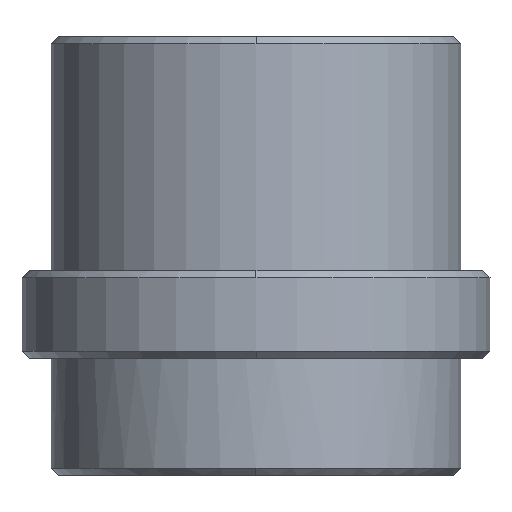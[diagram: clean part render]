
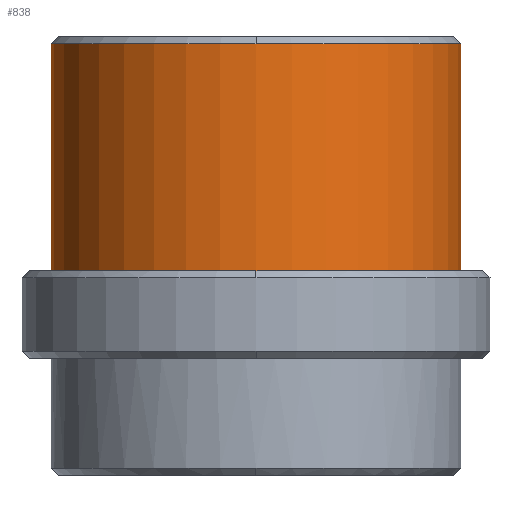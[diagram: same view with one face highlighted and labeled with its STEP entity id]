
A CAD part, front view. The second image highlights one B-rep face of the part: STEP entity #838.
In plain terms, the highlighted cylindrical face has radius 14 mm (diameter 28 mm), a partial arc.
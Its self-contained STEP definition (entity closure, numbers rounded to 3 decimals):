
#591=CARTESIAN_POINT('Vertex',(0.,-14.,21.5)) ;
#607=CARTESIAN_POINT('Vertex',(-14.,0.,21.5)) ;
#610=CARTESIAN_POINT('Axis2P3D Location',(0.,0.,21.5)) ;
#627=CARTESIAN_POINT('Axis2P3D Location',(0.,0.,21.5)) ;
#631=CARTESIAN_POINT('Vertex',(14.,0.,21.5)) ;
#807=CARTESIAN_POINT('Axis2P3D Location',(0.,0.,-9.5)) ;
#812=CARTESIAN_POINT('Line Origine',(-14.,0.,-9.5)) ;
#816=CARTESIAN_POINT('Vertex',(-14.,0.,6.)) ;
#819=CARTESIAN_POINT('Axis2P3D Location',(0.,0.,6.)) ;
#823=CARTESIAN_POINT('Vertex',(14.,0.,6.)) ;
#826=CARTESIAN_POINT('Line Origine',(14.,0.,-9.5)) ;
#611=DIRECTION('Axis2P3D Direction',(0.,0.,-1.)) ;
#628=DIRECTION('Axis2P3D Direction',(0.,0.,-1.)) ;
#808=DIRECTION('Axis2P3D Direction',(0.,0.,1.)) ;
#809=DIRECTION('Axis2P3D XDirection',(-1.,0.,0.)) ;
#813=DIRECTION('Vector Direction',(0.,0.,1.)) ;
#820=DIRECTION('Axis2P3D Direction',(0.,0.,1.)) ;
#827=DIRECTION('Vector Direction',(0.,0.,1.)) ;
#612=AXIS2_PLACEMENT_3D('Circle Axis2P3D',#610,#611,$) ;
#629=AXIS2_PLACEMENT_3D('Circle Axis2P3D',#627,#628,$) ;
#810=AXIS2_PLACEMENT_3D('Cylinder Axis2P3D',#807,#808,#809) ;
#821=AXIS2_PLACEMENT_3D('Circle Axis2P3D',#819,#820,$) ;
#832=ORIENTED_EDGE('',*,*,#818,.T.) ;
#833=ORIENTED_EDGE('',*,*,#825,.F.) ;
#834=ORIENTED_EDGE('',*,*,#830,.F.) ;
#835=ORIENTED_EDGE('',*,*,#633,.T.) ;
#836=ORIENTED_EDGE('',*,*,#614,.T.) ;
#814=VECTOR('Line Direction',#813,1.) ;
#828=VECTOR('Line Direction',#827,1.) ;
#838=ADVANCED_FACE('MANIFOLD_SOLID_BREP #2006',(#837),#811,.T.) ;
#613=CIRCLE('generated circle',#612,14.) ;
#630=CIRCLE('generated circle',#629,14.) ;
#822=CIRCLE('generated circle',#821,14.) ;
#811=CYLINDRICAL_SURFACE('generated cylinder',#810,14.) ;
#614=EDGE_CURVE('',#592,#608,#613,.T.) ;
#633=EDGE_CURVE('',#632,#592,#630,.T.) ;
#818=EDGE_CURVE('',#608,#817,#815,.F.) ;
#825=EDGE_CURVE('',#824,#817,#822,.F.) ;
#830=EDGE_CURVE('',#632,#824,#829,.F.) ;
#831=EDGE_LOOP('',(#832,#833,#834,#835,#836)) ;
#837=FACE_OUTER_BOUND('',#831,.T.) ;
#815=LINE('Line',#812,#814) ;
#829=LINE('Line',#826,#828) ;
#592=VERTEX_POINT('',#591) ;
#608=VERTEX_POINT('',#607) ;
#632=VERTEX_POINT('',#631) ;
#817=VERTEX_POINT('',#816) ;
#824=VERTEX_POINT('',#823) ;
